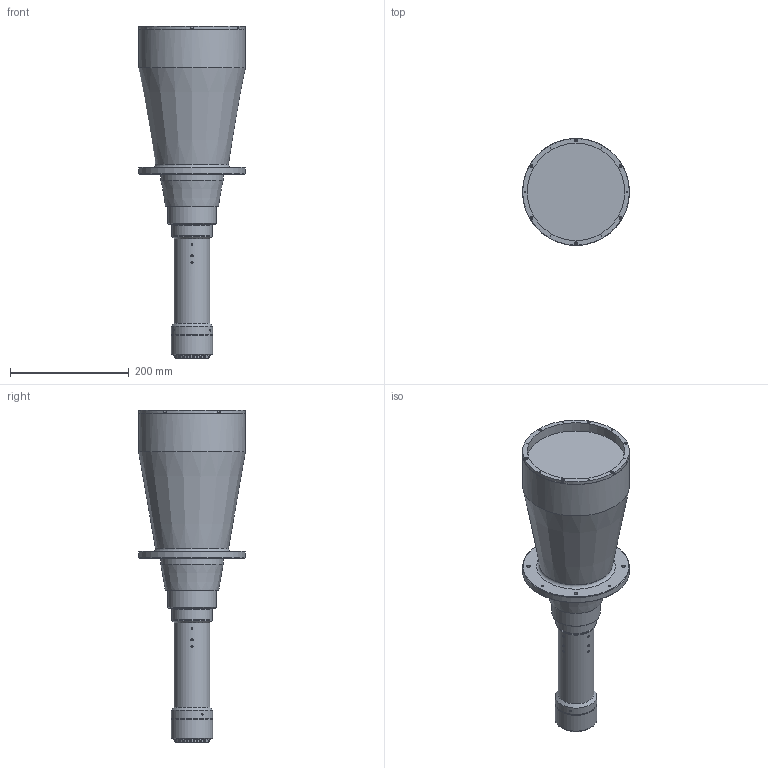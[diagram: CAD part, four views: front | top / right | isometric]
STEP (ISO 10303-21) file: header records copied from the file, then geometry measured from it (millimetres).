
FILE_DESCRIPTION (( 'STEP AP203' ), '1' );
FILE_NAME ('3d_mtl-15043M58-029_a003.STEP', '2017-06-21T07:12:25', ( '' ), ( '' ), 'SwSTEP 2.0', 'SolidWorks 2014', '' );
FILE_SCHEMA (( 'CONFIG_CONTROL_DESIGN' ));
Length unit declared in the file: millimetre
Products named in the file (1): 3d_mtl-15043M58-029_a003
Bounding box: 180 x 180 x 559.06 mm (x, y, z)
Volume: 5912908.8 mm3; surface area: 281816.1 mm2
Topology: 1 solids, 9 shells, 722 faces, 1657 edges, 1007 vertices
Faces by surface type: plane 423, cone 180, cylinder 83, torus 28, sphere 8
Full cylindrical faces by diameter (mm): 1.5 x6, 1.6 x4, 2.5 x3, 3.2 x4, 3.5 x8, 4.2 x4, 4.4 x6, 5.5 x4, 6 x4, 6.5 x4, 51 x2, 52 x2, 55 x1, 56.4 x1, 57 x1, 57.2 x1, 57.5 x1, 58 x2, 60 x1, 61 x1, 68 x2, 69.5 x1, 70 x2, 73 x1, 82 x1, 105 x1, 122.87 x1, 164 x1, 179.5 x1, 180 x2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
Entity records: 19785 total; most frequent: CARTESIAN_POINT 4417, DIRECTION 3306, ORIENTED_EDGE 2848, EDGE_CURVE 1424, AXIS2_PLACEMENT_3D 1337, EDGE_LOOP 974, VERTEX_POINT 942, FACE_OUTER_BOUND 830
